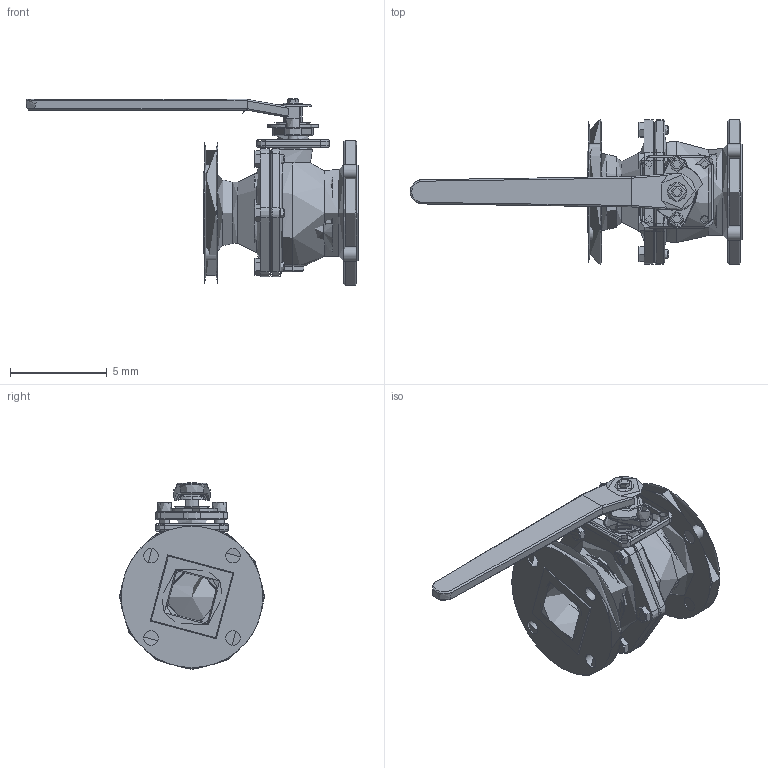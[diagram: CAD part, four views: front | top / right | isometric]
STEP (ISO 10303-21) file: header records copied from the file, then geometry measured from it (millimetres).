
FILE_DESCRIPTION(('Open CASCADE Model'),'2;1');
FILE_NAME('Open CASCADE Shape Model','2021-11-19T09:00:54',('Author'),( 'Open CASCADE'),'Open CASCADE STEP processor 7.3','Open CASCADE 7.3' ,'Unknown');
FILE_SCHEMA(('AUTOMOTIVE_DESIGN { 1 0 10303 214 1 1 1 1 }'));
Length unit declared in the file: millimetre
Products named in the file (6): Open CASCADE STEP translator 7.3 1; Open CASCADE STEP translator 7.3 1.1; Open CASCADE STEP translator 7.3 1.2; Open CASCADE STEP translator 7.3 1.3; Open CASCADE STEP translator 7.3 1.4; Open CASCADE STEP translator 7.3 1.5
Assembly tree (5 placements, depth 2):
  Open CASCADE STEP translator 7.3 1
    Open CASCADE STEP translator 7.3 1.1
    Open CASCADE STEP translator 7.3 1.2
    Open CASCADE STEP translator 7.3 1.3
    Open CASCADE STEP translator 7.3 1.4
    Open CASCADE STEP translator 7.3 1.5
Bounding box: 17.14 x 7.48 x 9.63 mm (x, y, z)
Surface area: 22024.5 mm2
Topology: 9 solids, 10 shells, 517 faces, 1292 edges, 805 vertices
Faces by surface type: plane 223, cylinder 179, torus 55, cone 43, sphere 10, bspline 7
Full cylindrical faces by diameter (mm): 0.039 x2, 0.157 x2, 0.268 x7, 0.315 x2, 0.331 x1, 0.394 x4, 0.5 x16, 0.547 x2, 0.579 x6, 0.709 x2, 0.748 x8, 0.972 x1, 0.984 x2, 1.004 x1, 1.181 x1, 1.22 x1, 1.567 x1, 3.15 x3, 3.307 x2, 3.327 x2, 3.63 x1, 4.012 x2, 4.016 x2, 4.496 x1, 5.079 x1, 5.755 x1, 7.48 x2
Entity records: 68962 total; most frequent: CARTESIAN_POINT 44641, DIRECTION 4402, ORIENTED_EDGE 2500, PCURVE 2494, DEFINITIONAL_REPRESENTATION 2494, LINE 2161, VECTOR 2161, EDGE_CURVE 1247
